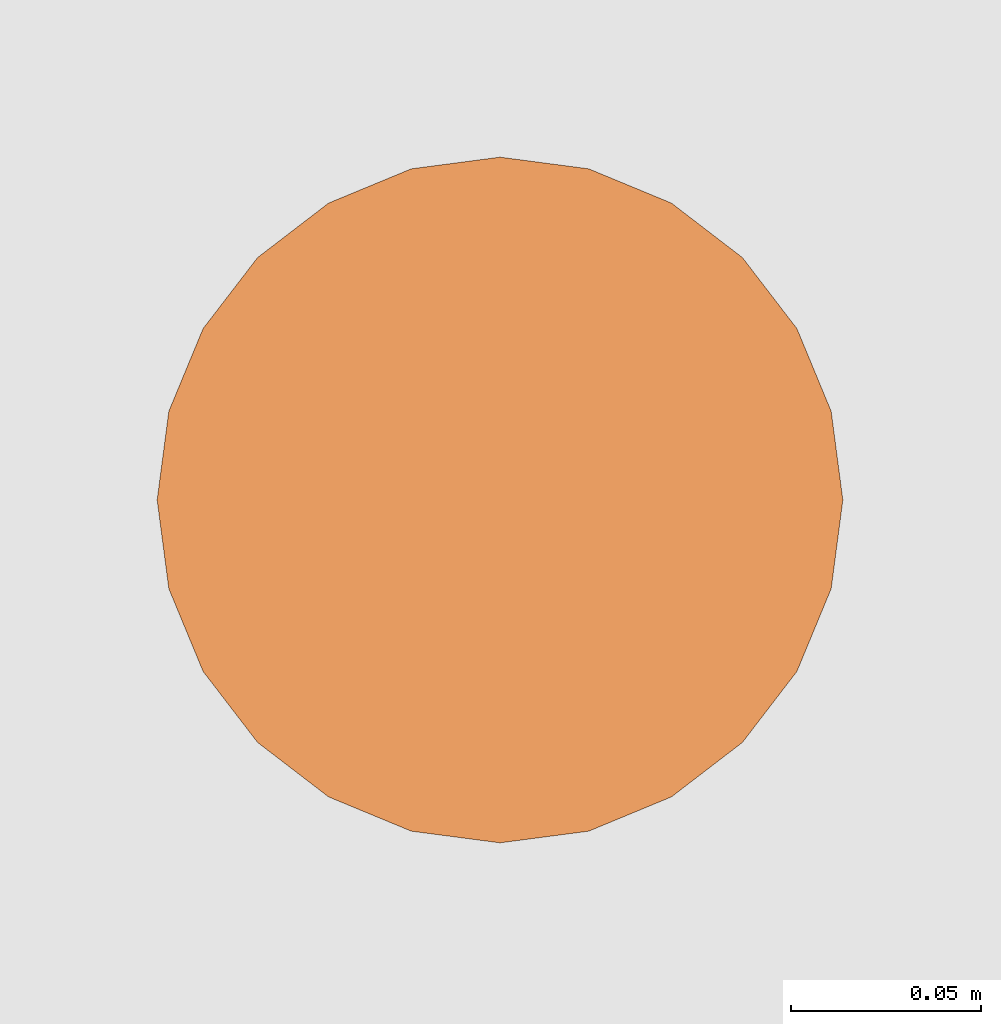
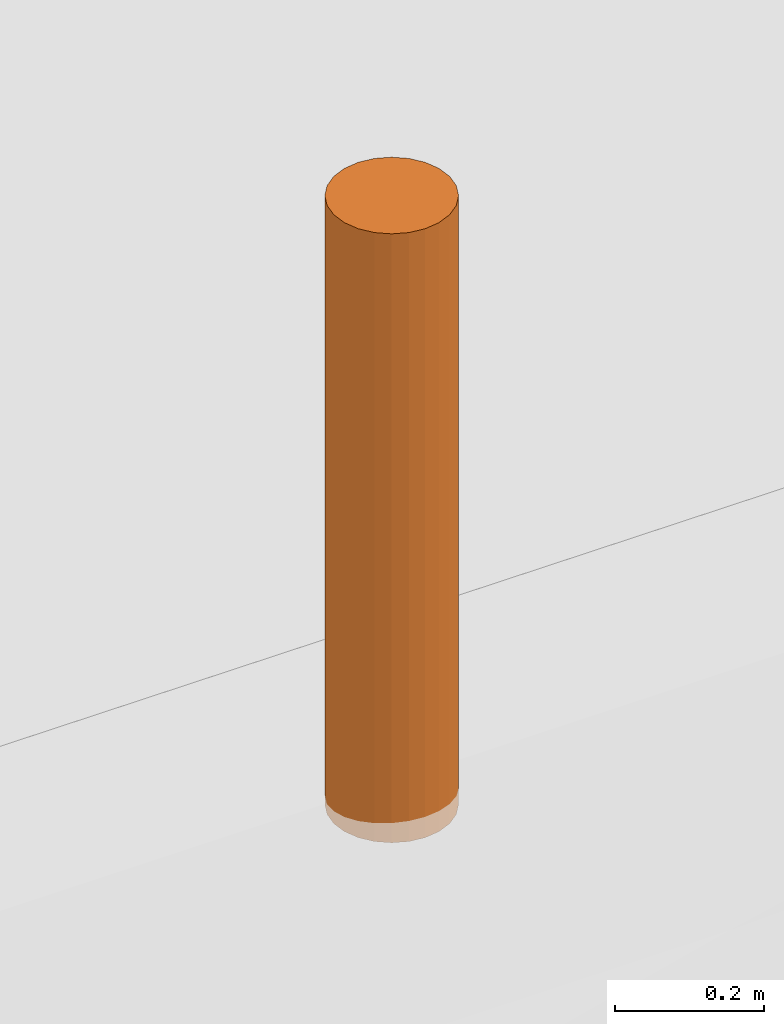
# One storey, part 235 of 246: 1 proxy.
"""IFC2X3 building model written with IfcOpenShell, lengths in millimetres."""

from ifc_helpers import new_model, entity, si_unit, converted_unit, derived_unit, money_unit, direction, frame, origin_with_axes, place, context, subcontext, project, spatial, faceted_brep, material, type_object, element, save


model = new_model("IFC2X3")

# Units and contexts
model_context = context("Model", 3, precision=0.01, world=origin_with_axes(), true_north=direction((0.0, 1.0)))
body_context = subcontext(model_context, "Body", "Model", "MODEL_VIEW")
ifc_project = project(units=[si_unit("LENGTHUNIT", "METRE", prefix="MILLI"), si_unit("AREAUNIT", "SQUARE_METRE"), si_unit("VOLUMEUNIT", "CUBIC_METRE"), converted_unit("PLANEANGLEUNIT", "DEGREE", entity("IfcPlaneAngleMeasure", 0.0174532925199), si_unit("PLANEANGLEUNIT", "RADIAN"), dimensions=[0, 0, 0, 0, 0, 0, 0]), si_unit("SOLIDANGLEUNIT", "STERADIAN"), money_unit("EUR"), converted_unit("TIMEUNIT", "Year", entity("IfcTimeMeasure", 31556926.0), si_unit("TIMEUNIT", "SECOND"), dimensions=[0, 0, 1, 0, 0, 0, 0]), si_unit("MASSUNIT", "GRAM", prefix="KILO"), si_unit("THERMODYNAMICTEMPERATUREUNIT", "DEGREE_CELSIUS"), si_unit("LUMINOUSINTENSITYUNIT", "LUMEN"), si_unit("ENERGYUNIT", "JOULE", prefix="MEGA"), derived_unit("THERMALCONDUCTANCEUNIT", [(si_unit("POWERUNIT", "WATT"), 1), (si_unit("LENGTHUNIT", "METRE"), -1), (si_unit("THERMODYNAMICTEMPERATUREUNIT", "KELVIN"), -1)]), derived_unit("SPECIFICHEATCAPACITYUNIT", [(si_unit("ENERGYUNIT", "JOULE"), 1), (si_unit("MASSUNIT", "GRAM", prefix="KILO"), -1), (si_unit("THERMODYNAMICTEMPERATUREUNIT", "KELVIN"), -1)]), derived_unit("MASSDENSITYUNIT", [(si_unit("MASSUNIT", "GRAM", prefix="KILO"), 1), (si_unit("VOLUMEUNIT", "CUBIC_METRE"), -1)])], contexts=[model_context])

# Site, building, storey
site_placement = place(None, origin_with_axes())
site = spatial("IfcSite", under=ifc_project, at=site_placement, Name="L.Koidula tn 11b", CompositionType="ELEMENT")
building_placement = place(site_placement, origin_with_axes())
building = spatial("IfcBuilding", under=site, at=building_placement, Name="Rakvere Riigigümnaasium", CompositionType="ELEMENT")
storey_placement = place(building_placement, origin_with_axes())
storey = spatial("IfcBuildingStorey", under=building, at=storey_placement, Name="1.korrus 0,00", CompositionType="ELEMENT", Elevation=0.0)

# Proxy
ifc_material = material(Name="Alumiinium (RAL 7026)")
building_element_proxy_type = type_object("IfcBuildingElementProxyType", Name="Alumiinium (RAL 7026) D180", PredefinedType="NOTDEFINED")
proxy_placement = place(storey_placement, frame((81413.1434404, 1486.45341722, -167.922002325), z_axis=(0.0, 0.0, 1.0), x_axis=(1.0, 0.0, 0.0)))
element("IfcBuildingElementProxy", 1, at=proxy_placement, inside=storey, type_object=building_element_proxy_type, material=ifc_material, Name="Pollar valgusti", context=body_context, shape_type="Brep", body=[
    faceted_brep([(-90.0, 0.0, 1000.0), (-90.0, 0.0, 0.0), (-86.933324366, -23.2937140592, 0.0), (-86.933324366, -23.2937140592, 1000.0), (-86.933324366, 23.2937140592, 1000.0), (-86.933324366, 23.2937140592, 0.0), (-77.9422863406, 45.0, 0.0), (-63.6396103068, 63.6396103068, 0.0), (-45.0, 77.9422863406, 0.0), (-23.2937140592, 86.933324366, 0.0), (0.0, 90.0, 0.0), (23.2937140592, 86.933324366, 0.0), (45.0, 77.9422863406, 0.0), (63.6396103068, 63.6396103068, 0.0), (77.9422863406, 45.0, 0.0), (86.933324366, 23.2937140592, 0.0), (90.0, 0.0, 0.0), (86.933324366, -23.2937140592, 0.0), (77.9422863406, -45.0, 0.0), (63.6396103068, -63.6396103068, 0.0), (45.0, -77.9422863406, 0.0), (23.2937140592, -86.933324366, 0.0), (0.0, -90.0, 0.0), (-23.2937140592, -86.933324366, 0.0), (-45.0, -77.9422863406, 0.0), (-63.6396103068, -63.6396103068, 0.0), (-77.9422863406, -45.0, 0.0), (-77.9422863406, -45.0, 1000.0), (-63.6396103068, -63.6396103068, 1000.0), (-45.0, -77.9422863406, 1000.0), (-23.2937140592, -86.933324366, 1000.0), (0.0, -90.0, 1000.0), (23.2937140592, -86.933324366, 1000.0), (45.0, -77.9422863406, 1000.0), (63.6396103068, -63.6396103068, 1000.0), (77.9422863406, -45.0, 1000.0), (86.933324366, -23.2937140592, 1000.0), (90.0, 0.0, 1000.0), (86.933324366, 23.2937140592, 1000.0), (77.9422863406, 45.0, 1000.0), (63.6396103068, 63.6396103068, 1000.0), (45.0, 77.9422863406, 1000.0), (23.2937140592, 86.933324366, 1000.0), (0.0, 90.0, 1000.0), (-23.2937140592, 86.933324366, 1000.0), (-45.0, 77.9422863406, 1000.0), (-63.6396103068, 63.6396103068, 1000.0), (-77.9422863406, 45.0, 1000.0)], [[[0, 1, 2, 3]], [[4, 5, 1, 0]], [[2, 1, 5, 6, 7, 8, 9, 10, 11, 12, 13, 14, 15, 16, 17, 18, 19, 20, 21, 22, 23, 24, 25, 26]], [[3, 2, 26, 27]], [[4, 0, 3, 27, 28, 29, 30, 31, 32, 33, 34, 35, 36, 37, 38, 39, 40, 41, 42, 43, 44, 45, 46, 47]], [[47, 6, 5, 4]], [[46, 7, 6, 47]], [[45, 8, 7, 46]], [[44, 9, 8, 45]], [[43, 10, 9, 44]], [[42, 11, 10, 43]], [[41, 12, 11, 42]], [[40, 13, 12, 41]], [[39, 14, 13, 40]], [[38, 15, 14, 39]], [[37, 16, 15, 38]], [[36, 17, 16, 37]], [[35, 18, 17, 36]], [[34, 19, 18, 35]], [[33, 20, 19, 34]], [[32, 21, 20, 33]], [[31, 22, 21, 32]], [[30, 23, 22, 31]], [[29, 24, 23, 30]], [[28, 25, 24, 29]], [[27, 26, 25, 28]]]),
])

save(model, "model.ifc")
